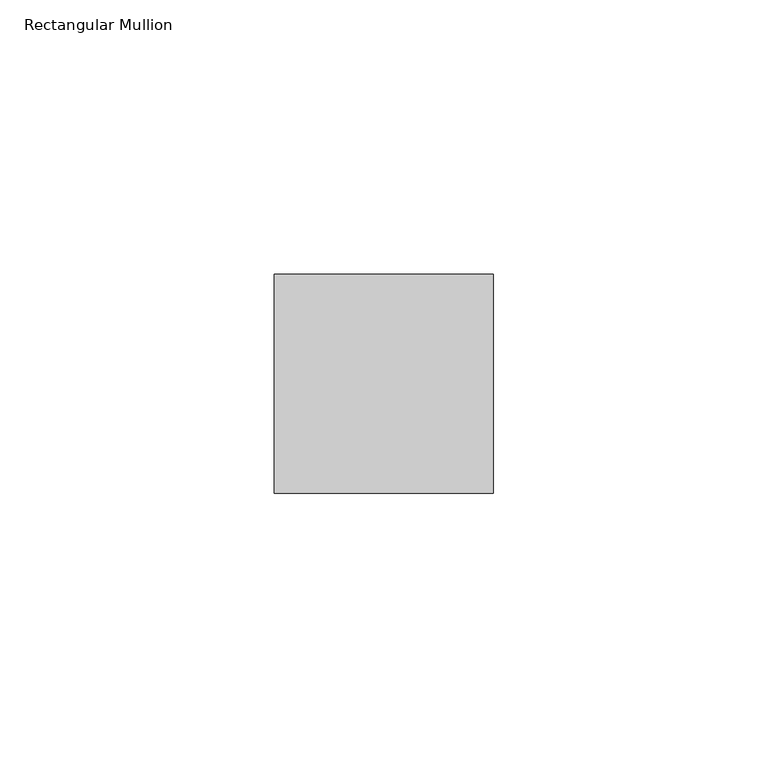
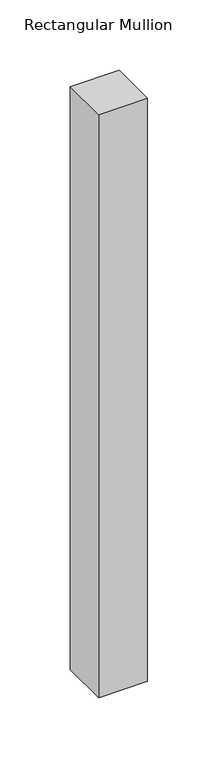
"""IFC4 building model written with IfcOpenShell, lengths in millimetres: member geometry, Rectangular Mullion : Danpal_NM_Middle-H-Mullion."""

from ifc_helpers import new_model, si_unit, frame, origin, place, context, project, spatial, polyline, outline, extrude, source, transform, mapped, element, save


def rectangular_mullion_91cc7b07(model_context):
    return source(origin(), model_context, "Body", "SweptSolid", [
        extrude(outline(polyline([(59.9, 13.2378279), (19.9, 13.2378279), (19.9, 53.2378279), (59.9, 53.2378279), (59.9, 13.2378279)])), frame((0.0, 0.0, -505.2700979), z_axis=(0.0, 0.0, 1.0), x_axis=(1.0, 0.0, 0.0)), (0.0, 0.0, 1.0), 505.2700979),
    ])


if __name__ == "__main__":
    model = new_model("IFC4")
    model_context = context("Model", 3, world=origin())
    ifc_project = project(units=[si_unit("LENGTHUNIT", "METRE", prefix="MILLI")], contexts=[model_context])
    site = spatial("IfcSite", under=ifc_project)
    building = spatial("IfcBuilding", under=site)
    placement = place(None, origin())
    rectangular_mullion_shape = rectangular_mullion_91cc7b07(model_context)
    element("IfcMember", 1, ObjectType="Rectangular Mullion : Danpal_NM_Middle-H-Mullion", at=placement, inside=building, context=model_context, shape_type="MappedRepresentation", body=[
        mapped(rectangular_mullion_shape, transform((0.0, 0.0, 0.0), x_axis=(1.0, 0.0, 0.0), y_axis=(0.0, 1.0, 0.0), z_axis=(0.0, 0.0, 1.0))),
    ])
    save(model, "model.ifc")
